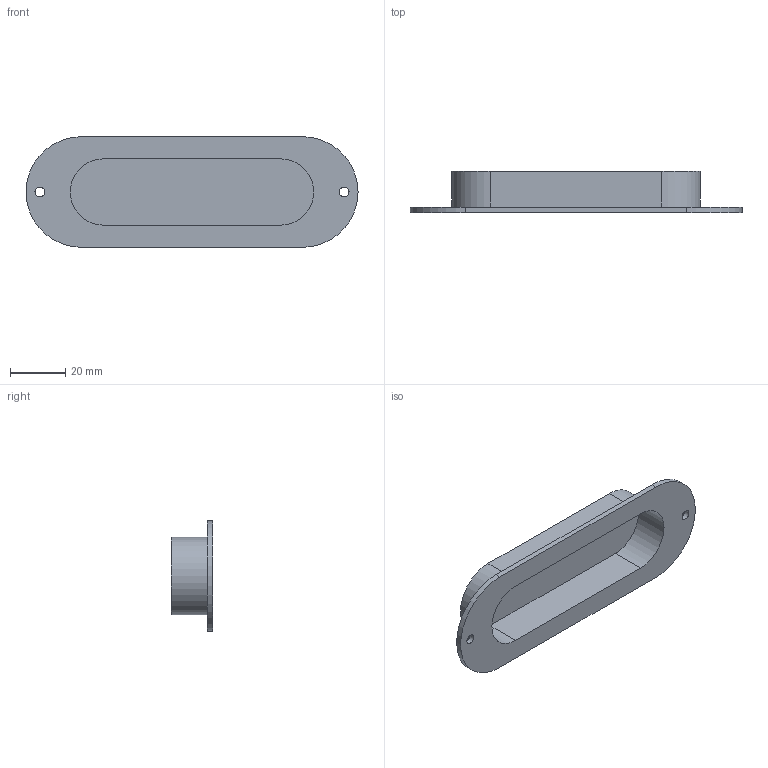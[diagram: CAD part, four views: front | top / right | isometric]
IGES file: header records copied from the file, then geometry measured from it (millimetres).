
Start section: Data from Parasolid IGES Translator 15.0.47, Copyright(c) 2006 Siemens P LM Software. All Rights Reserved.
Global section: file name: 9070693.igs; native system:  By UGS Corp.; preprocessor: XPlus GENERIC/IGES 3.0; author: Noname; organization: Noname; date: 20140122.095622; units: millimetre
Bounding box: 120 x 15 x 40 mm (x, y, z)
Surface area: 14889.8 mm2 (no closed solid volume)
Topology: 0 solids, 0 shells, 18 faces, 84 edges, 82 vertices
Faces by surface type: extrusion 10, revolution 8
